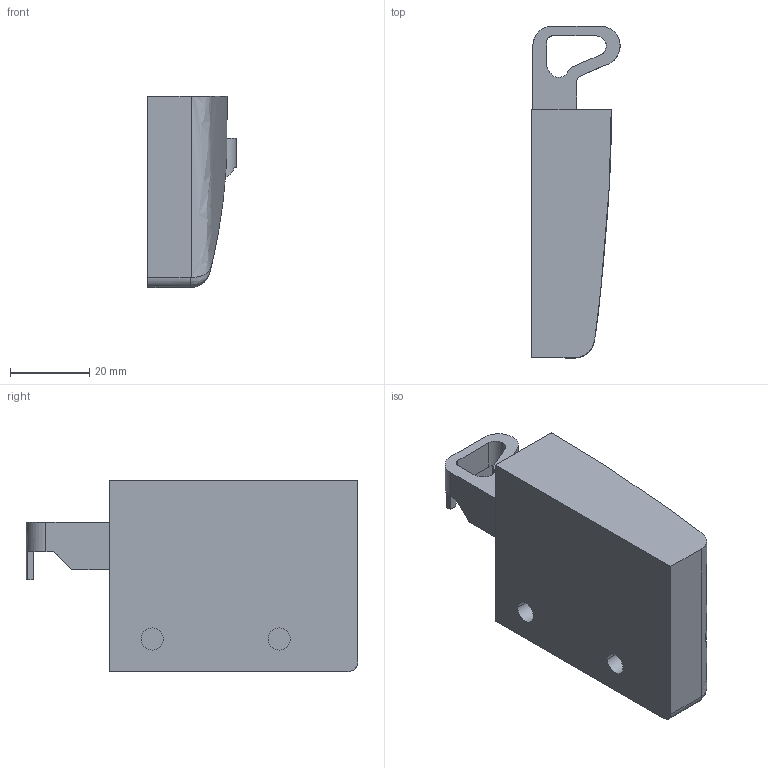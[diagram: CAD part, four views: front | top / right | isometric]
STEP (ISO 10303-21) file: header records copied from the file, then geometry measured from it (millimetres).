
FILE_DESCRIPTION (( 'STEP AP203' ), '1' );
FILE_NAME ('SH-40_links_D8401011117~0.step', '2012-05-04T07:14:53', ( 'admin' ), ( 'Hewlett-Packard Company' ), 'SwSTEP 2.0', 'SolidWorks 2011', '' );
FILE_SCHEMA (( 'CONFIG_CONTROL_DESIGN' ));
Length unit declared in the file: millimetre
Products named in the file (1): SH-40_links_D8401011117~0
Bounding box: 22.25 x 83.7 x 48.2 mm (x, y, z)
Volume: 54217.9 mm3; surface area: 11298.5 mm2
Topology: 1 solids, 1 shells, 48 faces, 131 edges, 87 vertices
Faces by surface type: plane 29, cylinder 16, bspline 3
Entity records: 3692 total; most frequent: CARTESIAN_POINT 2398, ORIENTED_EDGE 262, DIRECTION 246, EDGE_CURVE 131, VERTEX_POINT 87, LINE 84, VECTOR 84, AXIS2_PLACEMENT_3D 81
